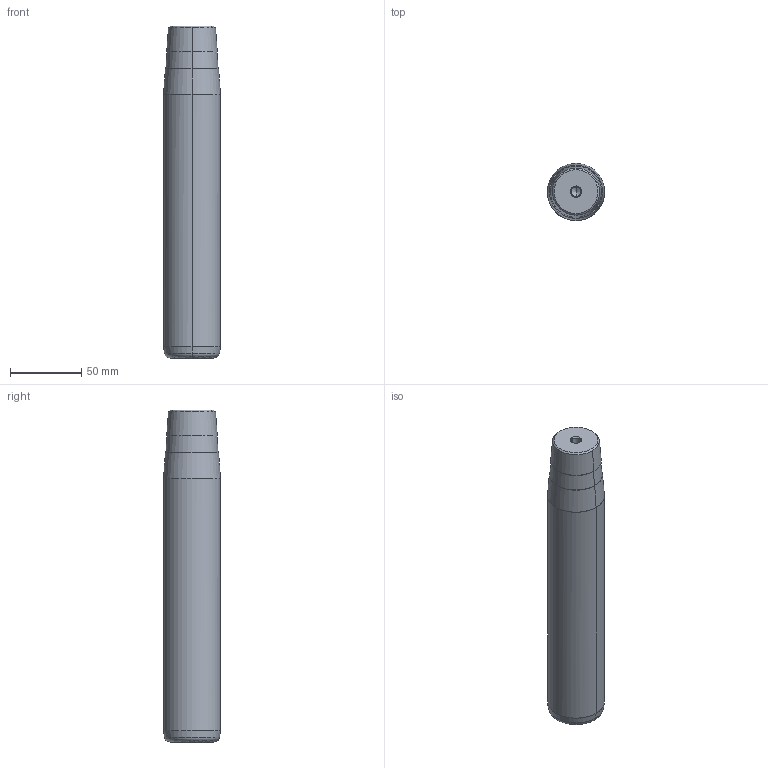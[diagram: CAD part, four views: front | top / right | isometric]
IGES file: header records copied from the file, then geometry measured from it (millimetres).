
Start section: START RECORD GO HERE.
Global section: file name: 722-40x200x233.igs; native system: DASSAULT SYSTEMES CATIA V5 R20 - www.3ds.com; preprocessor: CATIA Version 5 Release 20 ; author: Utente; organization: NB04-ASUS; date: 20210108.163504; units: millimetre
Bounding box: 40 x 40 x 233 mm (x, y, z)
Surface area: 31616.5 mm2 (no closed solid volume)
Topology: 0 solids, 0 shells, 32 faces, 192 edges, 188 vertices
Faces by surface type: revolution 30, plane 2
